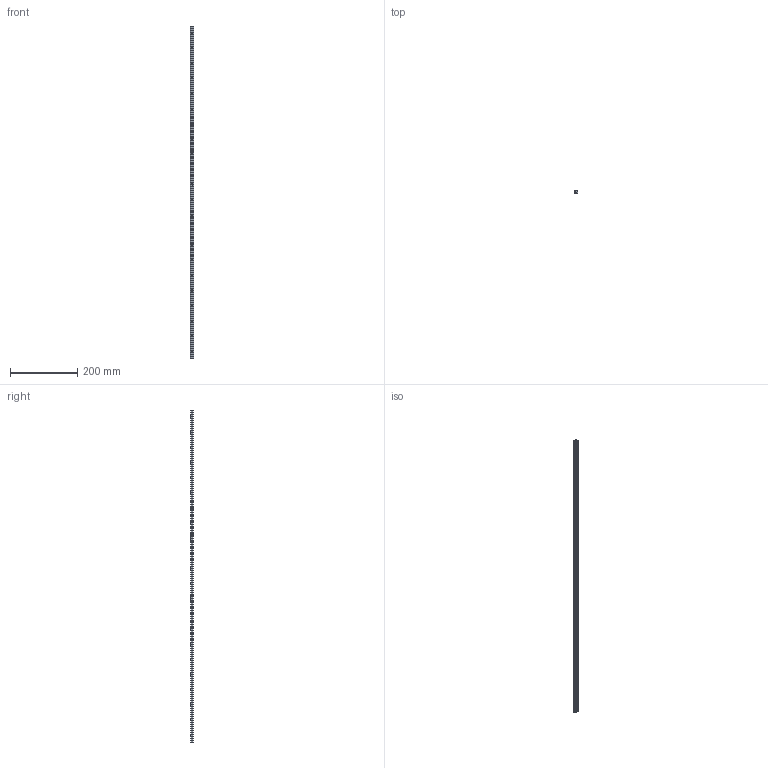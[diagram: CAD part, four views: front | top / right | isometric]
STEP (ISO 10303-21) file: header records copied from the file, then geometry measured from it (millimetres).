
FILE_DESCRIPTION(('STEP AP203'),'1');
FILE_NAME('slide_nmsel986p3.stp','2022-07-04T01:15:24',('TraceParts'),('TraceParts S.A.'),'Spatial InterOp 3D',' ',' ');
FILE_SCHEMA(('CONFIG_CONTROL_DESIGN'));
Length unit declared in the file: millimetre
Products named in the file (1): 1
Bounding box: 11.34 x 8.1 x 986 mm (x, y, z)
Volume: 66456.9 mm3; surface area: 43527.3 mm2
Topology: 1 solids, 1 shells, 133 faces, 327 edges, 218 vertices
Faces by surface type: cylinder 97, plane 36
Entity records: 4167 total; most frequent: DIRECTION 789, CARTESIAN_POINT 679, ORIENTED_EDGE 654, AXIS2_PLACEMENT_3D 328, EDGE_CURVE 327, VERTEX_POINT 218, EDGE_LOOP 199, CIRCLE 194
